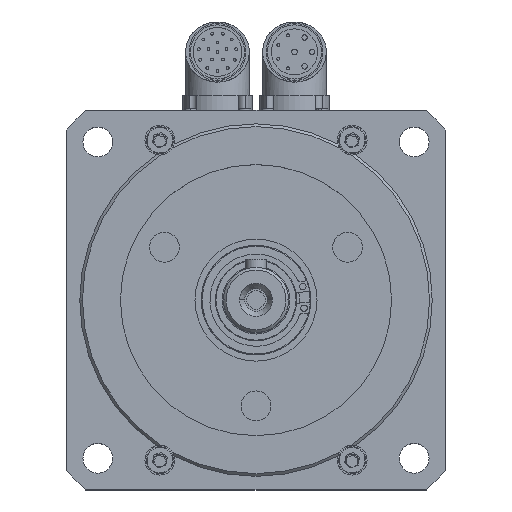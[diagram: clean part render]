
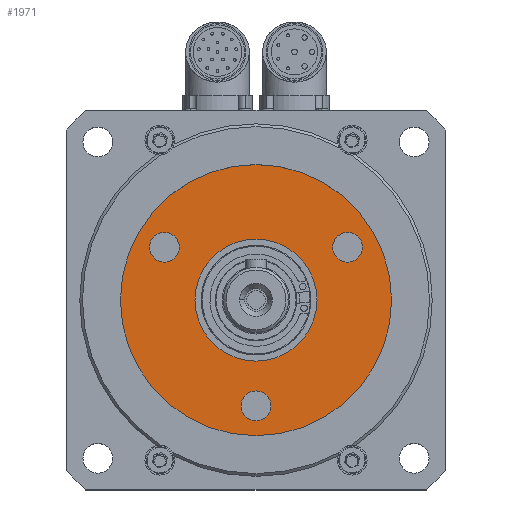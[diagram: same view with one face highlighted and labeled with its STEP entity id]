
A CAD part, top view. The second image highlights one B-rep face of the part: STEP entity #1971.
In plain terms, the highlighted planar face has unit normal (0, 0, 1).
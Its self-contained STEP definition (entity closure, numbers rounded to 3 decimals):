
#50 = CIRCLE ( 'NONE', #4300, 5.5 ) ;
#63 = CIRCLE ( 'NONE', #4419, 50. ) ;
#341 = DIRECTION ( 'NONE',  ( 0., 0., 1. ) ) ;
#342 = DIRECTION ( 'NONE',  ( 1., 0., 0. ) ) ;
#807 = CARTESIAN_POINT ( 'NONE',  ( 33.775, 19.5, 21.5 ) ) ;
#815 = DIRECTION ( 'NONE',  ( 0., 0., 1. ) ) ;
#816 = DIRECTION ( 'NONE',  ( 1., 0., 0. ) ) ;
#1135 = ORIENTED_EDGE ( 'NONE', *, *, #12515, .F. ) ;
#1161 = ORIENTED_EDGE ( 'NONE', *, *, #12518, .F. ) ;
#1167 = ORIENTED_EDGE ( 'NONE', *, *, #12432, .F. ) ;
#1198 = ORIENTED_EDGE ( 'NONE', *, *, #12012, .F. ) ;
#1212 = ORIENTED_EDGE ( 'NONE', *, *, #12016, .T. ) ;
#1230 = ORIENTED_EDGE ( 'NONE', *, *, #12429, .F. ) ;
#1295 = ORIENTED_EDGE ( 'NONE', *, *, #12188, .F. ) ;
#1971 = ADVANCED_FACE ( 'NONE', ( #15455, #15463, #15465, #15467, #15457 ), #15016, .T. ) ;
#2214 = EDGE_LOOP ( 'NONE', ( #1212, #3778 ) ) ;
#2218 = EDGE_LOOP ( 'NONE', ( #1167, #3783 ) ) ;
#2807 = CARTESIAN_POINT ( 'NONE',  ( 0., -39., 21.5 ) ) ;
#2814 = DIRECTION ( 'NONE',  ( 0., 0., 1. ) ) ;
#2815 = DIRECTION ( 'NONE',  ( 1., 0., 0. ) ) ;
#2816 = CARTESIAN_POINT ( 'NONE',  ( 0., 0., 21.5 ) ) ;
#2822 = DIRECTION ( 'NONE',  ( 0., 0., 1. ) ) ;
#2823 = DIRECTION ( 'NONE',  ( 1., 0., 0. ) ) ;
#3003 = CARTESIAN_POINT ( 'NONE',  ( 0., 0., 21.5 ) ) ;
#3016 = DIRECTION ( 'NONE',  ( 0., 0., 1. ) ) ;
#3017 = DIRECTION ( 'NONE',  ( 1., 0., 0. ) ) ;
#3021 = CARTESIAN_POINT ( 'NONE',  ( 0., -39., 21.5 ) ) ;
#3025 = CARTESIAN_POINT ( 'NONE',  ( 0., 0., 21.5 ) ) ;
#3029 = DIRECTION ( 'NONE',  ( 0., 0., 1. ) ) ;
#3030 = DIRECTION ( 'NONE',  ( 1., 0., 0. ) ) ;
#3031 = DIRECTION ( 'NONE',  ( 0., 0., 1. ) ) ;
#3032 = DIRECTION ( 'NONE',  ( 1., 0., 0. ) ) ;
#3044 = CARTESIAN_POINT ( 'NONE',  ( 33.775, 19.5, 21.5 ) ) ;
#3045 = DIRECTION ( 'NONE',  ( 0., 0., 1. ) ) ;
#3046 = DIRECTION ( 'NONE',  ( 1., 0., 0. ) ) ;
#3047 = CARTESIAN_POINT ( 'NONE',  ( -33.775, 19.5, 21.5 ) ) ;
#3052 = DIRECTION ( 'NONE',  ( 0., 0., 1. ) ) ;
#3053 = DIRECTION ( 'NONE',  ( 1., 0., 0. ) ) ;
#3500 = EDGE_LOOP ( 'NONE', ( #1198, #1161 ) ) ;
#3564 = EDGE_LOOP ( 'NONE', ( #1295, #1135 ) ) ;
#3566 = EDGE_LOOP ( 'NONE', ( #1230, #3791 ) ) ;
#3778 = ORIENTED_EDGE ( 'NONE', *, *, #12510, .T. ) ;
#3783 = ORIENTED_EDGE ( 'NONE', *, *, #12504, .F. ) ;
#3791 = ORIENTED_EDGE ( 'NONE', *, *, #12509, .F. ) ;
#4178 = AXIS2_PLACEMENT_3D ( 'NONE', #2816, #2822, #2823 ) ;
#4181 = AXIS2_PLACEMENT_3D ( 'NONE', #2807, #2814, #2815 ) ;
#4226 = AXIS2_PLACEMENT_3D ( 'NONE', #807, #815, #816 ) ;
#4300 = AXIS2_PLACEMENT_3D ( 'NONE', #11523, #11524, #11525 ) ;
#4393 = AXIS2_PLACEMENT_3D ( 'NONE', #3047, #3052, #3053 ) ;
#4419 = AXIS2_PLACEMENT_3D ( 'NONE', #11518, #341, #342 ) ;
#4438 = AXIS2_PLACEMENT_3D ( 'NONE', #3044, #3045, #3046 ) ;
#5156 = AXIS2_PLACEMENT_3D ( 'NONE', #3021, #3029, #3030 ) ;
#5178 = AXIS2_PLACEMENT_3D ( 'NONE', #15002, #15003, #15004 ) ;
#5186 = AXIS2_PLACEMENT_3D ( 'NONE', #3025, #3031, #3032 ) ;
#5239 = AXIS2_PLACEMENT_3D ( 'NONE', #3003, #3016, #3017 ) ;
#5675 = CARTESIAN_POINT ( 'NONE',  ( 5.5, -39., 21.5 ) ) ;
#5709 = CARTESIAN_POINT ( 'NONE',  ( -22.5, 0., 21.5 ) ) ;
#5768 = CARTESIAN_POINT ( 'NONE',  ( -28.275, 19.5, 21.5 ) ) ;
#5801 = CARTESIAN_POINT ( 'NONE',  ( 50., 0., 21.5 ) ) ;
#5885 = CARTESIAN_POINT ( 'NONE',  ( -50., 0., 21.5 ) ) ;
#5967 = CARTESIAN_POINT ( 'NONE',  ( -39.275, 19.5, 21.5 ) ) ;
#5968 = CARTESIAN_POINT ( 'NONE',  ( -5.5, -39., 21.5 ) ) ;
#6873 = CIRCLE ( 'NONE', #4226, 5.5 ) ;
#8000 = CIRCLE ( 'NONE', #4181, 5.5 ) ;
#8006 = CIRCLE ( 'NONE', #4178, 22.5 ) ;
#8099 = CIRCLE ( 'NONE', #5239, 22.5 ) ;
#8106 = CIRCLE ( 'NONE', #5156, 5.5 ) ;
#8107 = CIRCLE ( 'NONE', #5186, 50. ) ;
#8114 = CIRCLE ( 'NONE', #4438, 5.5 ) ;
#8119 = CIRCLE ( 'NONE', #4393, 5.5 ) ;
#10410 = CARTESIAN_POINT ( 'NONE',  ( 39.275, 19.5, 21.5 ) ) ;
#10546 = CARTESIAN_POINT ( 'NONE',  ( 28.275, 19.5, 21.5 ) ) ;
#10856 = VERTEX_POINT ( 'NONE', #14674 ) ;
#10922 = VERTEX_POINT ( 'NONE', #10410 ) ;
#11033 = VERTEX_POINT ( 'NONE', #10546 ) ;
#11518 = CARTESIAN_POINT ( 'NONE',  ( 0., 0., 21.5 ) ) ;
#11523 = CARTESIAN_POINT ( 'NONE',  ( -33.775, 19.5, 21.5 ) ) ;
#11524 = DIRECTION ( 'NONE',  ( 0., 0., 1. ) ) ;
#11525 = DIRECTION ( 'NONE',  ( 1., 0., 0. ) ) ;
#12012 = EDGE_CURVE ( 'NONE', #12985, #14305, #50, .T. ) ;
#12016 = EDGE_CURVE ( 'NONE', #13999, #14094, #63, .T. ) ;
#12188 = EDGE_CURVE ( 'NONE', #10922, #11033, #6873, .T. ) ;
#12429 = EDGE_CURVE ( 'NONE', #12829, #14300, #8000, .T. ) ;
#12432 = EDGE_CURVE ( 'NONE', #10856, #12889, #8006, .T. ) ;
#12504 = EDGE_CURVE ( 'NONE', #12889, #10856, #8099, .T. ) ;
#12509 = EDGE_CURVE ( 'NONE', #14300, #12829, #8106, .T. ) ;
#12510 = EDGE_CURVE ( 'NONE', #14094, #13999, #8107, .T. ) ;
#12515 = EDGE_CURVE ( 'NONE', #11033, #10922, #8114, .T. ) ;
#12518 = EDGE_CURVE ( 'NONE', #14305, #12985, #8119, .T. ) ;
#12829 = VERTEX_POINT ( 'NONE', #5675 ) ;
#12889 = VERTEX_POINT ( 'NONE', #5709 ) ;
#12985 = VERTEX_POINT ( 'NONE', #5768 ) ;
#13999 = VERTEX_POINT ( 'NONE', #5801 ) ;
#14094 = VERTEX_POINT ( 'NONE', #5885 ) ;
#14300 = VERTEX_POINT ( 'NONE', #5968 ) ;
#14305 = VERTEX_POINT ( 'NONE', #5967 ) ;
#14674 = CARTESIAN_POINT ( 'NONE',  ( 22.5, 0., 21.5 ) ) ;
#15002 = CARTESIAN_POINT ( 'NONE',  ( 0., 50., 21.5 ) ) ;
#15003 = DIRECTION ( 'NONE',  ( 0., 0., 1. ) ) ;
#15004 = DIRECTION ( 'NONE',  ( 1., 0., 0. ) ) ;
#15016 = PLANE ( 'NONE',  #5178 ) ;
#15455 = FACE_BOUND ( 'NONE', #3500, .T. ) ;
#15457 = FACE_BOUND ( 'NONE', #2218, .T. ) ;
#15463 = FACE_BOUND ( 'NONE', #3564, .T. ) ;
#15465 = FACE_BOUND ( 'NONE', #3566, .T. ) ;
#15467 = FACE_OUTER_BOUND ( 'NONE', #2214, .T. ) ;
